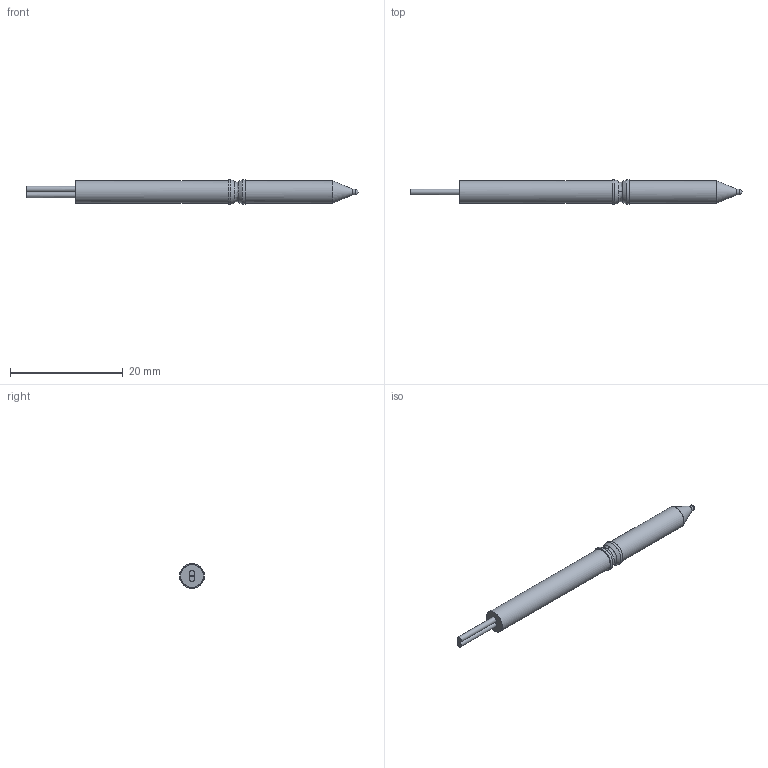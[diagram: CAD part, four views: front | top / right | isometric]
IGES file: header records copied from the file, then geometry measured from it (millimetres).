
Start section: C
Global section: file name: HPF-D033.igs; native system:  By UGS Corp.; preprocessor: XPlus GENERIC/IGES 3.0; author: Author; organization: Title; date: 20150506.132415; units: millimetre
Bounding box: 58.8 x 4.4 x 4.4 mm (x, y, z)
Surface area: 682.6 mm2 (no closed solid volume)
Topology: 0 solids, 0 shells, 17 faces, 94 edges, 92 vertices
Faces by surface type: bspline 17
